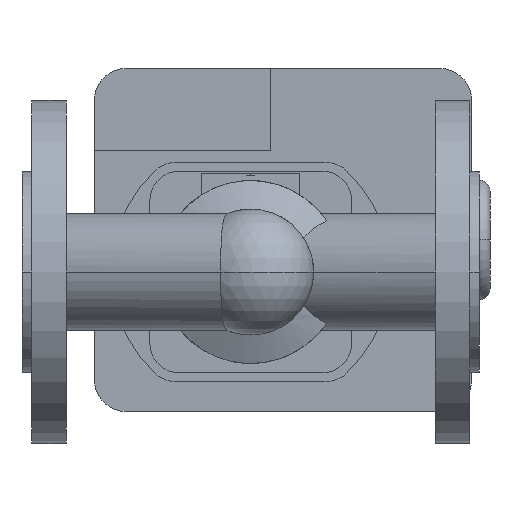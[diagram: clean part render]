
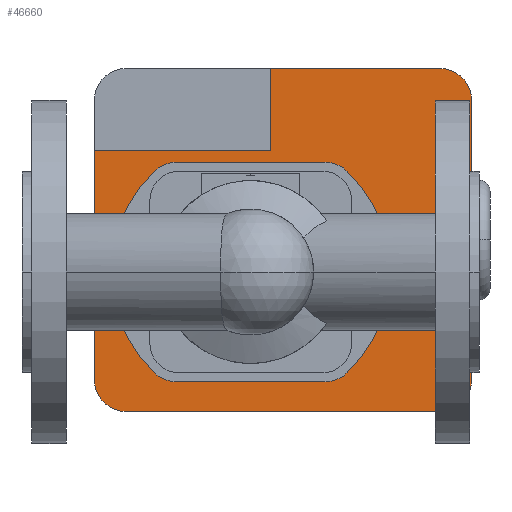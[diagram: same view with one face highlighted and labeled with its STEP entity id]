
A CAD part, front view. The second image highlights one B-rep face of the part: STEP entity #46660.
In plain terms, the highlighted planar face has unit normal (0, -1, 0).
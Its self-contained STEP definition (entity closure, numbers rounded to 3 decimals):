
#35550=CARTESIAN_POINT('',(159.96,320.,11.216));
#35560=VERTEX_POINT('',#35550);
#35590=CARTESIAN_POINT('',(150.,320.,0.));
#35600=DIRECTION('',(0.,1.,0.));
#35610=DIRECTION('',(0.,0.,1.));
#35620=AXIS2_PLACEMENT_3D('',#35590,#35600,#35610);
#35630=CIRCLE('',#35620,15.);
#35640=CARTESIAN_POINT('',(159.96,320.,-11.216));
#35650=VERTEX_POINT('',#35640);
#35660=EDGE_CURVE('',#35560,#35650,#35630,.T.);
#38380=CARTESIAN_POINT('',(142.116,320.,44.128));
#38390=VERTEX_POINT('',#38380);
#38420=CARTESIAN_POINT('',(100.,320.,0.));
#38430=DIRECTION('',(0.,1.,0.));
#38440=DIRECTION('',(0.69,0.,0.723));
#38450=AXIS2_PLACEMENT_3D('',#38420,#38430,#38440);
#38460=CIRCLE('',#38450,61.);
#38470=EDGE_CURVE('',#38390,#35560,#38460,.T.);
#38860=CARTESIAN_POINT('',(40.04,320.,-11.216));
#38870=VERTEX_POINT('',#38860);
#38900=CARTESIAN_POINT('',(50.,320.,0.));
#38910=DIRECTION('',(0.,1.,0.));
#38920=DIRECTION('',(0.,0.,-1.));
#38930=AXIS2_PLACEMENT_3D('',#38900,#38910,#38920);
#38940=CIRCLE('',#38930,15.);
#38950=CARTESIAN_POINT('',(40.04,320.,11.216));
#38960=VERTEX_POINT('',#38950);
#38970=EDGE_CURVE('',#38870,#38960,#38940,.T.);
#39960=CARTESIAN_POINT('',(57.884,320.,-44.128));
#39970=VERTEX_POINT('',#39960);
#40000=CARTESIAN_POINT('',(100.,320.,0.));
#40010=DIRECTION('',(0.,1.,0.));
#40020=DIRECTION('',(-0.69,0.,-0.723));
#40030=AXIS2_PLACEMENT_3D('',#40000,#40010,#40020);
#40040=CIRCLE('',#40030,61.);
#40050=EDGE_CURVE('',#39970,#38870,#40040,.T.);
#42360=CARTESIAN_POINT('',(182.6,320.,-61.));
#42370=VERTEX_POINT('',#42360);
#42420=CARTESIAN_POINT('',(182.6,320.,-47.));
#42430=DIRECTION('',(0.,1.,0.));
#42440=DIRECTION('',(1.,0.,0.));
#42450=AXIS2_PLACEMENT_3D('',#42420,#42430,#42440);
#42460=CIRCLE('',#42450,14.);
#42470=CARTESIAN_POINT('',(196.6,320.,-47.));
#42480=VERTEX_POINT('',#42470);
#42490=EDGE_CURVE('',#42480,#42370,#42460,.T.);
#45220=CARTESIAN_POINT('',(100.,320.,0.));
#45230=DIRECTION('',(0.,1.,0.));
#45240=DIRECTION('',(0.,0.,1.));
#45250=AXIS2_PLACEMENT_3D('',#45220,#45230,#45240);
#45260=PLANE('',#45250);
#45270=ORIENTED_EDGE('',*,*,#38470,.T.);
#45280=CARTESIAN_POINT('',(132.45,320.,34.));
#45290=DIRECTION('',(0.,1.,0.));
#45300=DIRECTION('',(0.,0.,1.));
#45310=AXIS2_PLACEMENT_3D('',#45280,#45290,#45300);
#45320=CIRCLE('',#45310,14.);
#45330=CARTESIAN_POINT('',(132.45,320.,48.));
#45340=VERTEX_POINT('',#45330);
#45350=EDGE_CURVE('',#45340,#38390,#45320,.T.);
#45360=ORIENTED_EDGE('',*,*,#45350,.T.);
#45370=CARTESIAN_POINT('',(83.775,320.,48.));
#45380=DIRECTION('',(1.,0.,0.));
#45390=VECTOR('',#45380,1.);
#45400=LINE('',#45370,#45390);
#45410=CARTESIAN_POINT('',(67.55,320.,48.));
#45420=VERTEX_POINT('',#45410);
#45430=EDGE_CURVE('',#45420,#45340,#45400,.T.);
#45440=ORIENTED_EDGE('',*,*,#45430,.T.);
#45450=CARTESIAN_POINT('',(67.55,320.,34.));
#45460=DIRECTION('',(0.,1.,0.));
#45470=DIRECTION('',(-0.69,0.,0.723));
#45480=AXIS2_PLACEMENT_3D('',#45450,#45460,#45470);
#45490=CIRCLE('',#45480,14.);
#45500=CARTESIAN_POINT('',(57.884,320.,44.128));
#45510=VERTEX_POINT('',#45500);
#45520=EDGE_CURVE('',#45510,#45420,#45490,.T.);
#45530=ORIENTED_EDGE('',*,*,#45520,.T.);
#45540=CARTESIAN_POINT('',(100.,320.,0.));
#45550=DIRECTION('',(0.,1.,0.));
#45560=DIRECTION('',(-0.69,0.,-0.723));
#45570=AXIS2_PLACEMENT_3D('',#45540,#45550,#45560);
#45580=CIRCLE('',#45570,61.);
#45590=EDGE_CURVE('',#38960,#45510,#45580,.T.);
#45600=ORIENTED_EDGE('',*,*,#45590,.T.);
#45610=ORIENTED_EDGE('',*,*,#38970,.T.);
#45620=ORIENTED_EDGE('',*,*,#40050,.T.);
#45630=CARTESIAN_POINT('',(67.55,320.,-34.));
#45640=DIRECTION('',(0.,1.,0.));
#45650=DIRECTION('',(0.,0.,-1.));
#45660=AXIS2_PLACEMENT_3D('',#45630,#45640,#45650);
#45670=CIRCLE('',#45660,14.);
#45680=CARTESIAN_POINT('',(67.55,320.,-48.));
#45690=VERTEX_POINT('',#45680);
#45700=EDGE_CURVE('',#45690,#39970,#45670,.T.);
#45710=ORIENTED_EDGE('',*,*,#45700,.T.);
#45720=CARTESIAN_POINT('',(116.225,320.,-48.));
#45730=DIRECTION('',(-1.,0.,0.));
#45740=VECTOR('',#45730,1.);
#45750=LINE('',#45720,#45740);
#45760=CARTESIAN_POINT('',(132.45,320.,-48.));
#45770=VERTEX_POINT('',#45760);
#45780=EDGE_CURVE('',#45770,#45690,#45750,.T.);
#45790=ORIENTED_EDGE('',*,*,#45780,.T.);
#45800=CARTESIAN_POINT('',(132.45,320.,-34.));
#45810=DIRECTION('',(0.,1.,0.));
#45820=DIRECTION('',(0.69,0.,-0.723));
#45830=AXIS2_PLACEMENT_3D('',#45800,#45810,#45820);
#45840=CIRCLE('',#45830,14.);
#45850=CARTESIAN_POINT('',(142.116,320.,-44.128));
#45860=VERTEX_POINT('',#45850);
#45870=EDGE_CURVE('',#45860,#45770,#45840,.T.);
#45880=ORIENTED_EDGE('',*,*,#45870,.T.);
#45890=CARTESIAN_POINT('',(100.,320.,0.));
#45900=DIRECTION('',(0.,1.,0.));
#45910=DIRECTION('',(0.69,0.,0.723));
#45920=AXIS2_PLACEMENT_3D('',#45890,#45900,#45910);
#45930=CIRCLE('',#45920,61.);
#45940=EDGE_CURVE('',#35650,#45860,#45930,.T.);
#45950=ORIENTED_EDGE('',*,*,#45940,.T.);
#45960=ORIENTED_EDGE('',*,*,#35660,.T.);
#45970=EDGE_LOOP('',(#45960,#45950,#45880,#45790,#45710,#45620,#45610,
#45600,#45530,#45440,#45360,#45270));
#45980=FACE_BOUND('',#45970,.T.);
#45990=CARTESIAN_POINT('',(108.6,320.,26.5));
#46000=DIRECTION('',(0.,0.,-1.));
#46010=VECTOR('',#46000,1.);
#46020=LINE('',#45990,#46010);
#46030=CARTESIAN_POINT('',(108.6,320.,89.));
#46040=VERTEX_POINT('',#46030);
#46050=CARTESIAN_POINT('',(108.6,320.,53.));
#46060=VERTEX_POINT('',#46050);
#46070=EDGE_CURVE('',#46040,#46060,#46020,.T.);
#46080=ORIENTED_EDGE('',*,*,#46070,.T.);
#46090=CARTESIAN_POINT('',(45.6,320.,89.));
#46100=DIRECTION('',(1.,0.,0.));
#46110=VECTOR('',#46100,1.);
#46120=LINE('',#46090,#46110);
#46130=CARTESIAN_POINT('',(182.6,320.,89.));
#46140=VERTEX_POINT('',#46130);
#46150=EDGE_CURVE('',#46040,#46140,#46120,.T.);
#46160=ORIENTED_EDGE('',*,*,#46150,.F.);
#46170=CARTESIAN_POINT('',(182.6,320.,75.));
#46180=DIRECTION('',(0.,1.,0.));
#46190=DIRECTION('',(0.,0.,1.));
#46200=AXIS2_PLACEMENT_3D('',#46170,#46180,#46190);
#46210=CIRCLE('',#46200,14.);
#46220=CARTESIAN_POINT('',(196.6,320.,75.));
#46230=VERTEX_POINT('',#46220);
#46240=EDGE_CURVE('',#46140,#46230,#46210,.T.);
#46250=ORIENTED_EDGE('',*,*,#46240,.F.);
#46260=CARTESIAN_POINT('',(196.6,320.,75.));
#46270=DIRECTION('',(0.,0.,-1.));
#46280=VECTOR('',#46270,1.);
#46290=LINE('',#46260,#46280);
#46300=EDGE_CURVE('',#46230,#42480,#46290,.T.);
#46310=ORIENTED_EDGE('',*,*,#46300,.F.);
#46320=ORIENTED_EDGE('',*,*,#42490,.F.);
#46330=CARTESIAN_POINT('',(182.6,320.,-61.));
#46340=DIRECTION('',(-1.,0.,0.));
#46350=VECTOR('',#46340,1.);
#46360=LINE('',#46330,#46350);
#46370=CARTESIAN_POINT('',(45.6,320.,-61.));
#46380=VERTEX_POINT('',#46370);
#46390=EDGE_CURVE('',#42370,#46380,#46360,.T.);
#46400=ORIENTED_EDGE('',*,*,#46390,.F.);
#46410=CARTESIAN_POINT('',(45.6,320.,-47.));
#46420=DIRECTION('',(0.,1.,0.));
#46430=DIRECTION('',(0.,0.,-1.));
#46440=AXIS2_PLACEMENT_3D('',#46410,#46420,#46430);
#46450=CIRCLE('',#46440,14.);
#46460=CARTESIAN_POINT('',(31.6,320.,-47.));
#46470=VERTEX_POINT('',#46460);
#46480=EDGE_CURVE('',#46380,#46470,#46450,.T.);
#46490=ORIENTED_EDGE('',*,*,#46480,.F.);
#46500=CARTESIAN_POINT('',(31.6,320.,-47.));
#46510=DIRECTION('',(0.,0.,1.));
#46520=VECTOR('',#46510,1.);
#46530=LINE('',#46500,#46520);
#46540=CARTESIAN_POINT('',(31.6,320.,53.));
#46550=VERTEX_POINT('',#46540);
#46560=EDGE_CURVE('',#46470,#46550,#46530,.T.);
#46570=ORIENTED_EDGE('',*,*,#46560,.F.);
#46580=CARTESIAN_POINT('',(65.3,320.,53.));
#46590=DIRECTION('',(-1.,0.,0.));
#46600=VECTOR('',#46590,1.);
#46610=LINE('',#46580,#46600);
#46620=EDGE_CURVE('',#46060,#46550,#46610,.T.);
#46630=ORIENTED_EDGE('',*,*,#46620,.T.);
#46640=EDGE_LOOP('',(#46630,#46570,#46490,#46400,#46320,#46310,#46250,
#46160,#46080));
#46650=FACE_OUTER_BOUND('',#46640,.T.);
#46660=ADVANCED_FACE('',(#45980,#46650),#45260,.F.);
